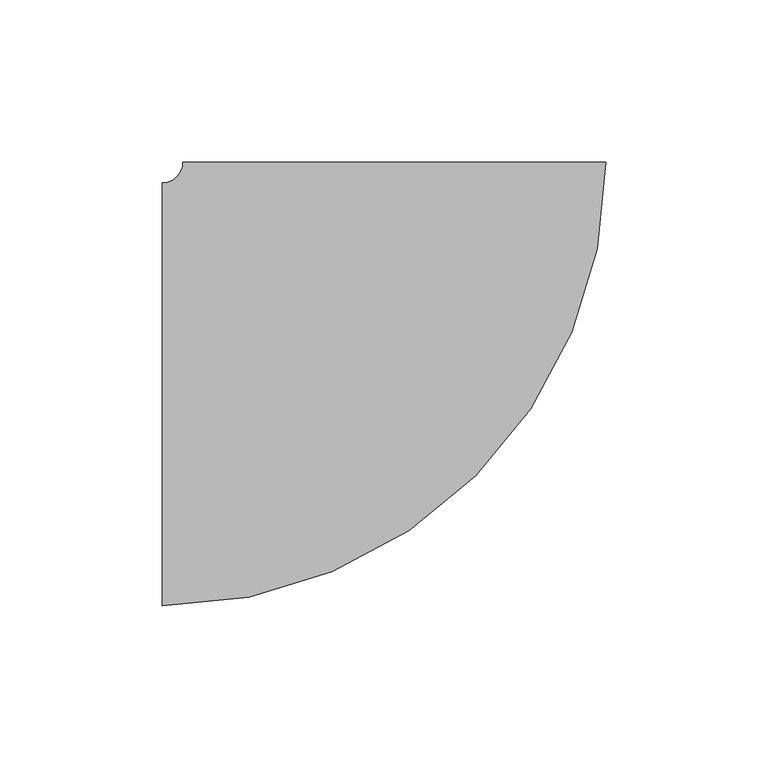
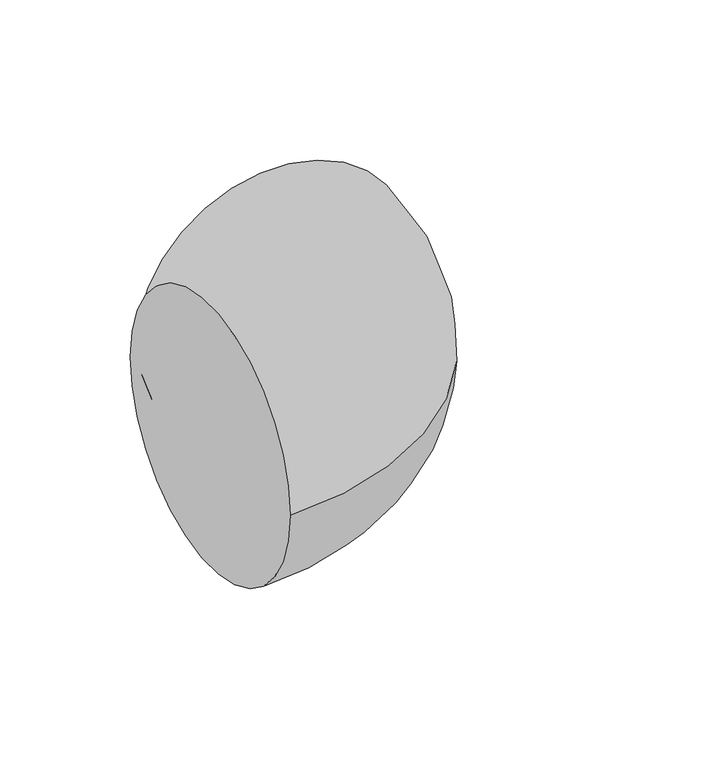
"""IFC4 building model written with IfcOpenShell, lengths in millimetres: pipe fitting geometry, M_Codo - Genérico : Estándar."""

from ifc_helpers import new_model, si_unit, point, frame, origin, place, context, project, spatial, circle_curve, ellipse_curve, trimmed, source, transform, mapped, element, save
from ifc_brep_helpers import plane_surface, revolved_surface, advanced_brep


def pipe_fitting_e05c7e6e(model_context):
    return source(origin(), model_context, "Body", "AdvancedBrep", [
        advanced_brep(
        [(-71.4303608, -65.0875, 0.0), (-71.4303608, 65.0875, 0.0), (65.0946385, 71.4238555, 0.0), (-65.0803608, 71.4368654, 0.0)],
        [
            (0, 1, circle_curve(frame((-71.4303608, 0.0, 0.0), z_axis=(-1.0, 0.0, 0.0), x_axis=(0.0, 1.0, 0.0)), 65.0875)),
            (1, 0, circle_curve(frame((-71.4303608, 0.0, 0.0), z_axis=(-1.0, 0.0, 0.0), x_axis=(0.0, 1.0, 0.0)), 65.0875)),
            (2, 3, circle_curve(frame((0.0071389, 71.4303604, 0.0), z_axis=(9.994157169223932e-05, 0.9999999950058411, 0.0), x_axis=(-0.9999999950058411, 9.994157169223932e-05, 0.0)), 65.0875)),
            (3, 2, circle_curve(frame((0.0071389, 71.4303604, 0.0), z_axis=(9.994157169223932e-05, 0.9999999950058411, 0.0), x_axis=(-0.9999999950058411, 9.994157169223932e-05, 0.0)), 65.0875)),
            (3, 1, circle_curve(frame((-71.4303608, 71.4375, 0.0), z_axis=(0.0, 0.0, -1.0), x_axis=(0.0, -1.0, 0.0)), 6.35)),
            (0, 2, circle_curve(frame((-71.4303608, 71.4375, 0.0), z_axis=(0.0, 0.0, 1.0), x_axis=(0.0, -1.0, 0.0)), 136.525)),
        ],
        [
            plane_surface(frame((-71.4303608, 0.0, 0.0), z_axis=(-1.0, 0.0, 0.0), x_axis=(0.0, 0.0, 1.0))),
            plane_surface(frame((0.0071389, 71.4303604, 0.0), z_axis=(9.994157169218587e-05, 0.9999999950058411, 0.0), x_axis=(0.0, 0.0, 1.0))),
            revolved_surface(trimmed(ellipse_curve(frame((-71.4303608, 0.0, 0.0), z_axis=(-1.0, 0.0, 0.0), x_axis=(0.0, 1.0, 0.0)), 65.0875, 65.0875), [point((-71.4303608, -65.0875, 0.0))], [point((-71.4303608, 65.0875, 0.0))], True, "CARTESIAN"), (-71.4303608, 71.4375, 0.0), (0.0, 0.0, 1.0)),
            revolved_surface(trimmed(ellipse_curve(frame((-71.4303608, 0.0, 0.0), z_axis=(-1.0, 0.0, 0.0), x_axis=(0.0, 1.0, 0.0)), 65.0875, 65.0875), [point((-71.4303608, 65.0875, 0.0))], [point((-71.4303608, -65.0875, 0.0))], True, "CARTESIAN"), (-71.4303608, 71.4375, 0.0), (0.0, 0.0, 1.0)),
        ],
        [
            (0, [[1, 2]]),
            (1, [[3, 4]]),
            (2, [[5, -1, 6, -4]]),
            (3, [[-6, -2, -5, -3]]),
        ],
    ),
    ])


if __name__ == "__main__":
    model = new_model("IFC4")
    model_context = context("Model", 3, world=origin())
    ifc_project = project(units=[si_unit("LENGTHUNIT", "METRE", prefix="MILLI")], contexts=[model_context])
    site = spatial("IfcSite", under=ifc_project)
    building = spatial("IfcBuilding", under=site)
    placement = place(None, origin())
    pipe_fitting_shape = pipe_fitting_e05c7e6e(model_context)
    element("IfcPipeFitting", 1, ObjectType="M_Codo - Genérico : Estándar", at=placement, inside=building, context=model_context, shape_type="MappedRepresentation", body=[
        mapped(pipe_fitting_shape, transform((0.0, 0.0, 0.0), x_axis=(1.0, 0.0, 0.0), y_axis=(0.0, 1.0, 0.0), z_axis=(0.0, 0.0, 1.0))),
    ])
    save(model, "model.ifc")
